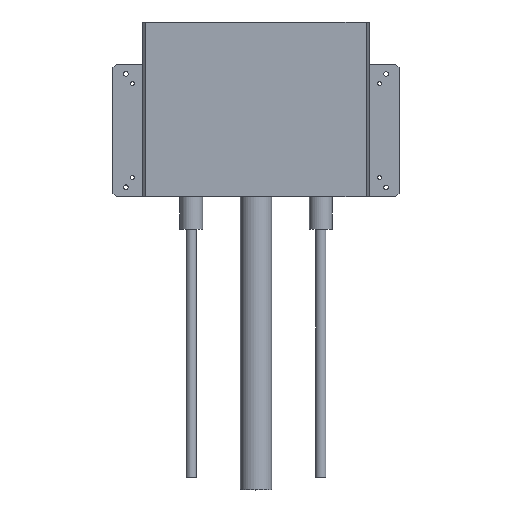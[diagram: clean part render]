
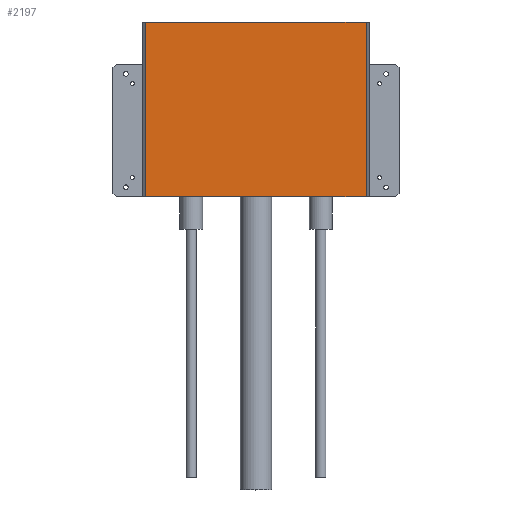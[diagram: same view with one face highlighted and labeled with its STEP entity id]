
A CAD part, top view. The second image highlights one B-rep face of the part: STEP entity #2197.
In plain terms, the highlighted planar face has unit normal (0, 0, 1) as drawn and (-1, 0, 0) by its records, which use the part's own axes.
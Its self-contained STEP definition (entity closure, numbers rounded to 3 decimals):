
#337=FACE_OUTER_BOUND('',#493,.T.);
#493=EDGE_LOOP('',(#1902,#1903,#1904,#1905));
#562=LINE('',#3105,#764);
#565=LINE('',#3111,#767);
#567=LINE('',#3122,#769);
#569=LINE('',#3125,#771);
#764=VECTOR('',#2552,10.);
#767=VECTOR('',#2557,10.);
#769=VECTOR('',#2567,10.);
#771=VECTOR('',#2571,10.);
#964=VERTEX_POINT('',#3099);
#966=VERTEX_POINT('',#3103);
#968=VERTEX_POINT('',#3109);
#972=VERTEX_POINT('',#3119);
#1168=EDGE_CURVE('',#964,#966,#562,.T.);
#1171=EDGE_CURVE('',#966,#968,#565,.T.);
#1176=EDGE_CURVE('',#968,#972,#567,.T.);
#1178=EDGE_CURVE('',#972,#964,#569,.T.);
#1902=ORIENTED_EDGE('',*,*,#1168,.T.);
#1903=ORIENTED_EDGE('',*,*,#1171,.T.);
#1904=ORIENTED_EDGE('',*,*,#1176,.T.);
#1905=ORIENTED_EDGE('',*,*,#1178,.T.);
#2079=PLANE('',#2474);
#2197=ADVANCED_FACE('',(#337),#2079,.F.);
#2474=AXIS2_PLACEMENT_3D('',#3805,#2939,#2940);
#2552=DIRECTION('',(0.,-1.,0.));
#2557=DIRECTION('',(0.,0.,1.));
#2567=DIRECTION('',(0.,1.,0.));
#2571=DIRECTION('',(0.,0.,-1.));
#2939=DIRECTION('center_axis',(1.,0.,0.));
#2940=DIRECTION('ref_axis',(0.,0.,-1.));
#3099=CARTESIAN_POINT('',(0.,270.,-345.));
#3103=CARTESIAN_POINT('',(0.,0.,-345.));
#3105=CARTESIAN_POINT('',(0.,67.5,-345.));
#3109=CARTESIAN_POINT('',(0.,0.,-5.));
#3111=CARTESIAN_POINT('',(0.,0.,-350.));
#3119=CARTESIAN_POINT('',(0.,270.,-5.));
#3122=CARTESIAN_POINT('',(0.,67.5,-5.));
#3125=CARTESIAN_POINT('',(0.,270.,0.));
#3805=CARTESIAN_POINT('Origin',(0.,135.,-175.));
